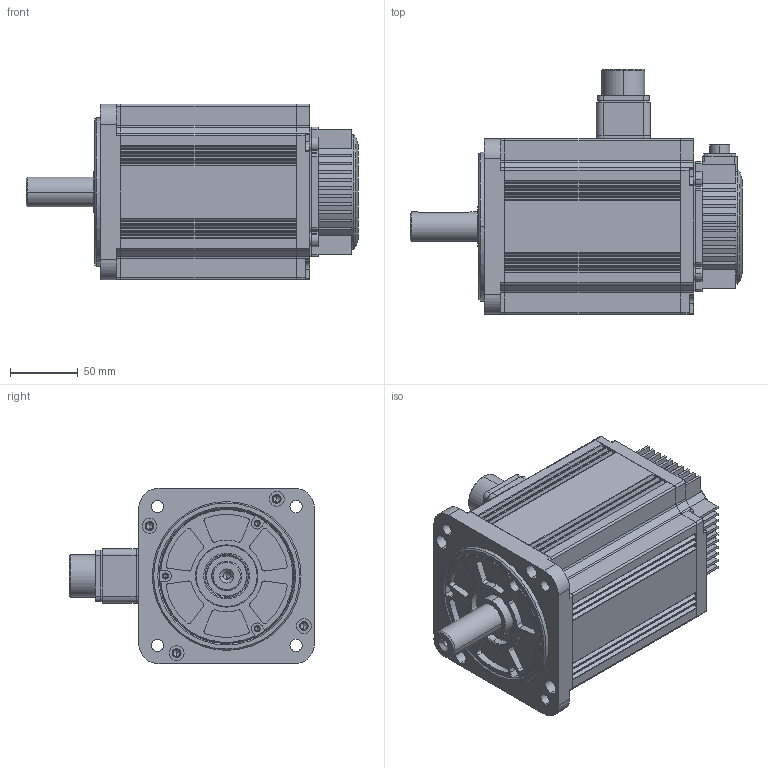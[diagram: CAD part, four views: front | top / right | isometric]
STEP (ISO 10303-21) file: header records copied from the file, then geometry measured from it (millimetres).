
FILE_DESCRIPTION (( 'STEP AP203' ), '1' );
FILE_NAME ('UMM-0010EAB-B2_UMM-0010CAB-B2.STEP', '2019-04-18T04:28:29', ( '' ), ( '' ), 'SwSTEP 2.0', 'SolidWorks 2017', '' );
FILE_SCHEMA (( 'CONFIG_CONTROL_DESIGN' ));
Products named in the file (1): UMM-0010EAB-B2_UMM-0010CAB-B2
Bounding box: 245.5 x 181.3 x 130 mm (x, y, z)
Volume: 1068633.1 mm3; surface area: 372853.6 mm2
Topology: 12 solids, 12 shells, 1446 faces, 4064 edges, 2604 vertices
Faces by surface type: cylinder 645, plane 513, bspline 135, cone 121, torus 32
Entity records: 54172 total; most frequent: CARTESIAN_POINT 16816, DIRECTION 7926, ORIENTED_EDGE 7900, EDGE_CURVE 3950, AXIS2_PLACEMENT_3D 3026, VERTEX_POINT 2604, LINE 1874, VECTOR 1874
